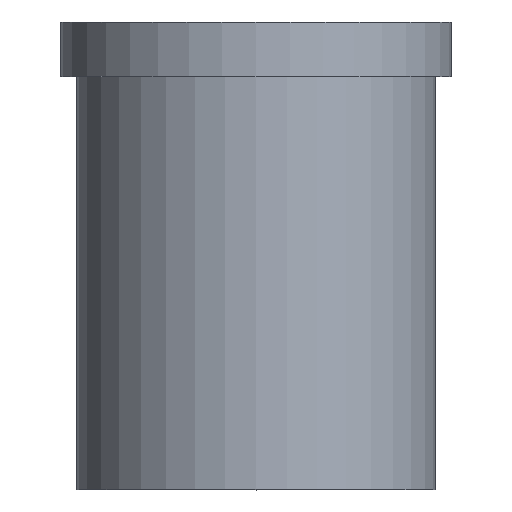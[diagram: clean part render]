
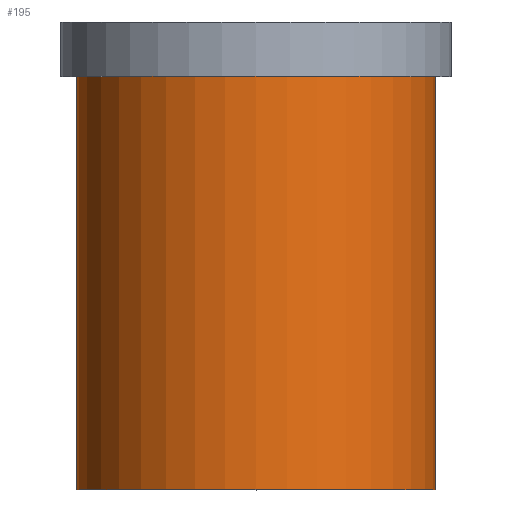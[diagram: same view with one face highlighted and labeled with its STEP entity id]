
A CAD part, top view. The second image highlights one B-rep face of the part: STEP entity #195.
In plain terms, the highlighted cylindrical face has radius 33 mm (diameter 66 mm), a full revolution.
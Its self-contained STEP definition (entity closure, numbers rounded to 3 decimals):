
#32=ORIENTED_EDGE('',*,*,#50,.T.);
#33=ORIENTED_EDGE('',*,*,#49,.F.);
#49=EDGE_CURVE('',#59,#59,#69,.T.);
#50=EDGE_CURVE('',#60,#60,#70,.T.);
#59=VERTEX_POINT('',#280);
#60=VERTEX_POINT('',#283);
#69=CIRCLE('',#213,33.);
#70=CIRCLE('',#215,33.);
#82=EDGE_LOOP('',(#32));
#83=EDGE_LOOP('',(#33));
#102=FACE_BOUND('',#82,.T.);
#103=FACE_BOUND('',#83,.T.);
#117=CYLINDRICAL_SURFACE('',#214,33.);
#195=ADVANCED_FACE('',(#102,#103),#117,.T.);
#213=AXIS2_PLACEMENT_3D('',#279,#241,#242);
#214=AXIS2_PLACEMENT_3D('',#281,#243,#244);
#215=AXIS2_PLACEMENT_3D('',#282,#245,#246);
#241=DIRECTION('',(0.,-1.,0.));
#242=DIRECTION('',(0.,0.,-1.));
#243=DIRECTION('',(0.,-1.,0.));
#244=DIRECTION('',(0.,0.,-1.));
#245=DIRECTION('',(0.,-1.,0.));
#246=DIRECTION('',(0.,0.,-1.));
#279=CARTESIAN_POINT('',(0.,0.,0.));
#280=CARTESIAN_POINT('',(0.,0.,-33.));
#281=CARTESIAN_POINT('',(0.,0.,0.));
#282=CARTESIAN_POINT('',(0.,76.,0.));
#283=CARTESIAN_POINT('',(0.,76.,-33.));
